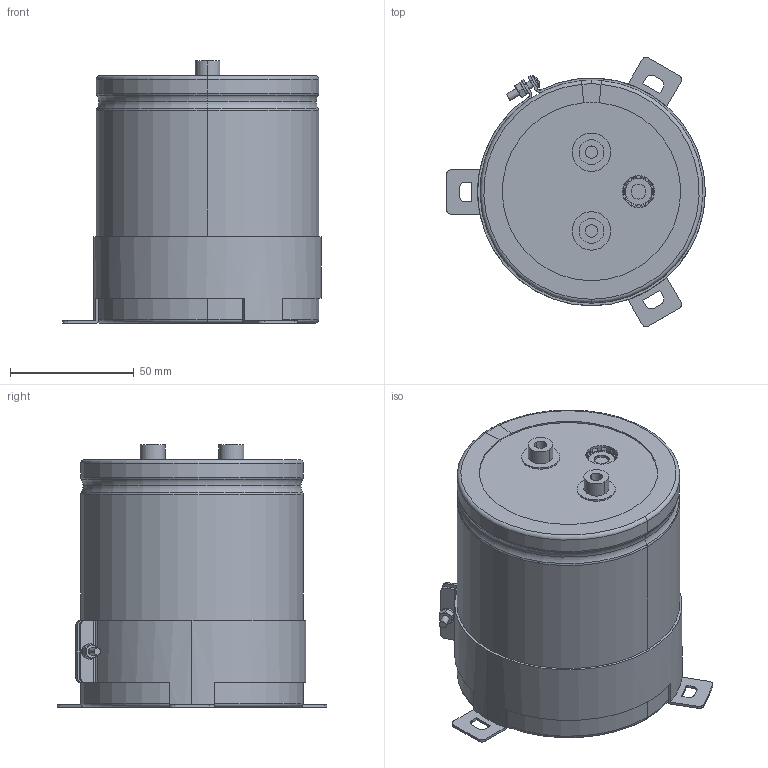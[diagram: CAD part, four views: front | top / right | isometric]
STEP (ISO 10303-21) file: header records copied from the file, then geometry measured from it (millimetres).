
FILE_DESCRIPTION(('STEP AP214'),'1');
FILE_NAME('90x100_Screw.stp','2022-03-14T05:40:38',(' '),(' '),'Spatial InterOp 3D',' ',' ');
FILE_SCHEMA(('AUTOMOTIVE_DESIGN { 1 0 10303 214 1 1 1 1 }'));
Length unit declared in the file: metre
Products named in the file (10): 90x100_Screw; Component1; Component2; Component3; Component4; Component5; Component6; Component7; Component8; Component9
Assembly tree (9 placements, depth 2):
  90x100_Screw
    Component1
    Component2
    Component3
    Component4
    Component5
    Component6
    Component7
    Component8
    Component9
Bounding box: 104.5 x 108.86 x 106 mm (x, y, z)
Volume: 638732.9 mm3; surface area: 124552.9 mm2
Topology: 9 solids, 9 shells, 352 faces, 873 edges, 551 vertices
Faces by surface type: plane 112, cylinder 110, torus 90, cone 38, sphere 2
Entity records: 11474 total; most frequent: DIRECTION 2126, CARTESIAN_POINT 1918, ORIENTED_EDGE 1746, AXIS2_PLACEMENT_3D 919, EDGE_CURVE 873, VERTEX_POINT 551, CIRCLE 511, EDGE_LOOP 380
